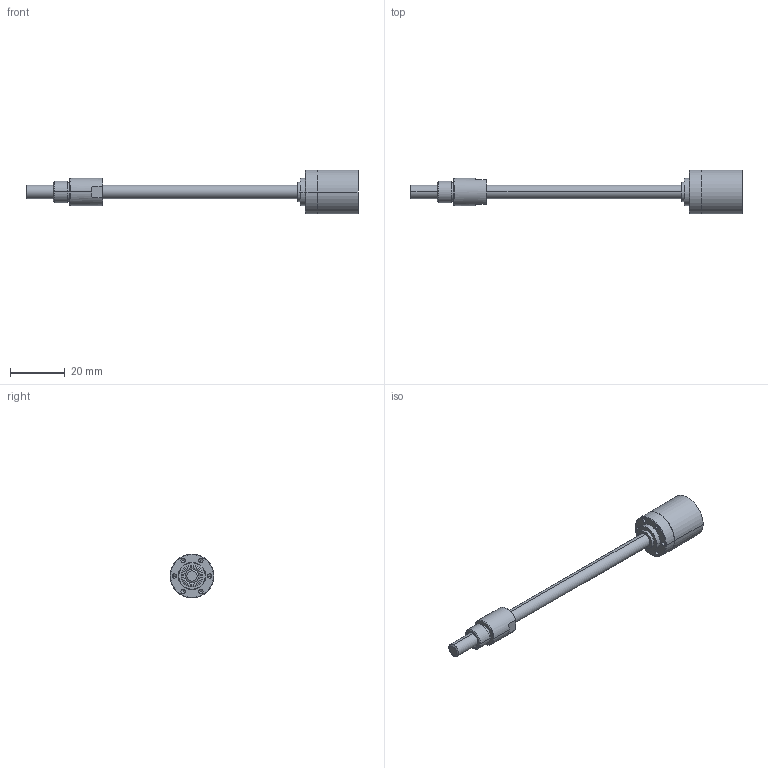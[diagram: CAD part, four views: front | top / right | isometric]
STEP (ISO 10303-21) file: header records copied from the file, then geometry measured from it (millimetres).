
FILE_DESCRIPTION((''),'2;1');
FILE_NAME('424221_GP16S_KG-0ST','2016-10-05T',('mmagpetk'),(''),'CREO PARAMETRIC BY PTC INC, 2016050','CREO PARAMETRIC BY PTC INC, 2016050','');
FILE_SCHEMA(('CONFIG_CONTROL_DESIGN'));
Length unit declared in the file: millimetre
Products named in the file (1): 424221_GP16S_KG-0ST
Bounding box: 121.2 x 16 x 16 mm (x, y, z)
Volume: 6535.6 mm3; surface area: 3902 mm2
Topology: 1 solids, 1 shells, 106 faces, 234 edges, 140 vertices
Faces by surface type: cylinder 46, cone 36, plane 22, torus 2
Entity records: 4918 total; most frequent: CARTESIAN_POINT 582, DIRECTION 552, ORIENTED_EDGE 444, PRESENTATION_STYLE_ASSIGNMENT 321, AXIS2_PLACEMENT_3D 232, STYLED_ITEM 223, CURVE_STYLE 222, EDGE_CURVE 222
